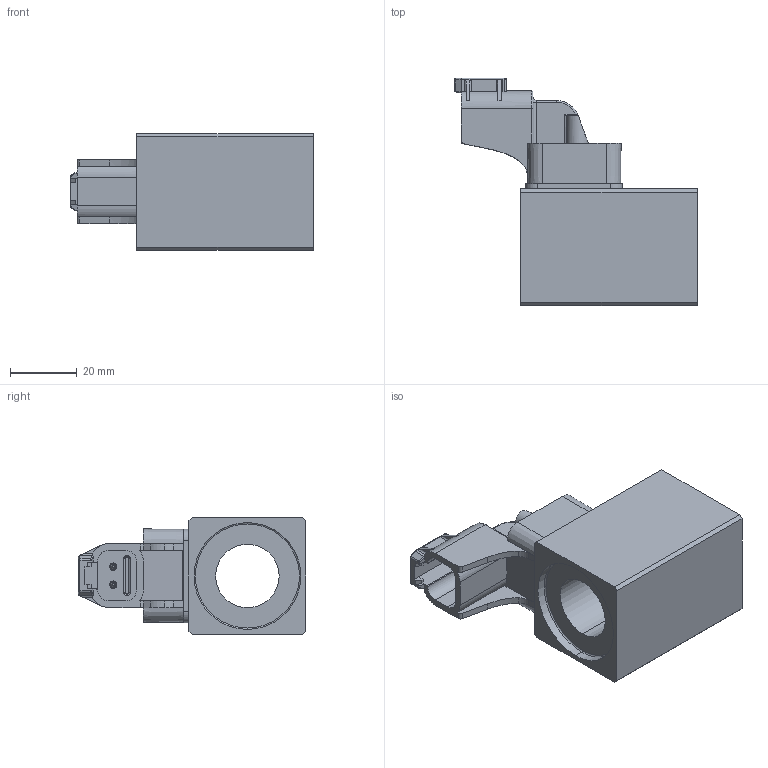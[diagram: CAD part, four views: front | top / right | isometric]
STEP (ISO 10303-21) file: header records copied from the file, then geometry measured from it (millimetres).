
FILE_DESCRIPTION (( 'STEP AP214' ), '1' );
FILE_NAME ('MGS35_19x50.STEP', '2015-07-16T08:21:30', ( '' ), ( '' ), 'SwSTEP 2.0', 'SolidWorks 2014', '' );
FILE_SCHEMA (( 'AUTOMOTIVE_DESIGN' ));
Length unit declared in the file: millimetre
Products named in the file (2): MGS35_19x50
Bounding box: 72.8 x 68.2 x 35 mm (x, y, z)
Volume: 62137 mm3; surface area: 23943.4 mm2
Topology: 6 solids, 6 shells, 487 faces, 1234 edges, 779 vertices
Faces by surface type: plane 230, cylinder 174, torus 36, cone 28, bspline 11, sphere 8
Entity records: 20305 total; most frequent: CARTESIAN_POINT 3225, DIRECTION 2495, ORIENTED_EDGE 2460, EDGE_CURVE 1230, AXIS2_PLACEMENT_3D 898, VERTEX_POINT 779, LINE 699, VECTOR 699
